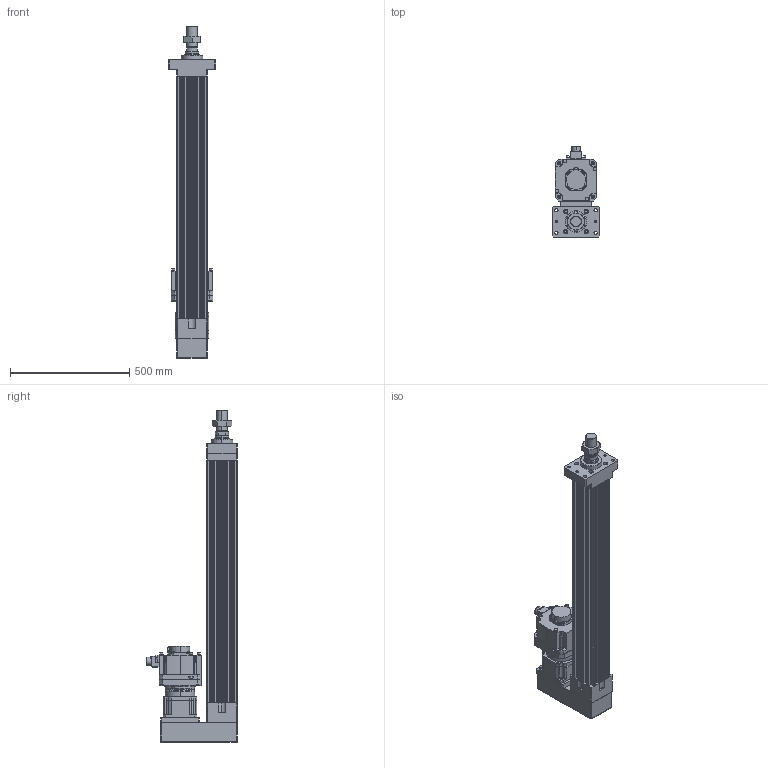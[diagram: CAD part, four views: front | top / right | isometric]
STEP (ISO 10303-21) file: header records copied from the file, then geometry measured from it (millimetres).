
FILE_DESCRIPTION (( 'STEP AP203' ), '1' );
FILE_NAME ('HES130FS(HS)-P800-W020G00-M-FMA.STEP', '2023-01-30T06:52:23', ( 'tms' ), ( '' ), 'SwSTEP 2.0', 'SolidWorks 2013', '' );
FILE_SCHEMA (( 'CONFIG_CONTROL_DESIGN' ));
Length unit declared in the file: millimetre
Products named in the file (9): HG-SR202; HES130 ROD M ST800; HES130FS(HS)-P800-W020G00-M-FMA; AB1421; AB142-003[HG-SR352]; P1301500001; P0403500801; M45X1.5P; HES130-P800-G142-FMA
Assembly tree (8 placements, depth 3):
  HES130FS(HS)-P800-W020G00-M-FMA
    HES130-P800-G142-FMA
    HES130 ROD M ST800
    M45X1.5P
    AB142-003[HG-SR352]
      AB1421
      P1301500001
      P0403500801
    HG-SR202
Bounding box: 200 x 381.85 x 1394 mm (x, y, z)
Volume: 16906241.3 mm3; surface area: 2082561.5 mm2
Topology: 4 solids, 18 shells, 1401 faces, 3660 edges, 2370 vertices
Faces by surface type: cylinder 643, plane 530, cone 146, bspline 76, torus 6
Entity records: 52014 total; most frequent: CARTESIAN_POINT 16222, DIRECTION 7460, ORIENTED_EDGE 7222, EDGE_CURVE 3633, AXIS2_PLACEMENT_3D 2825, VERTEX_POINT 2370, VECTOR 1810, LINE 1810
